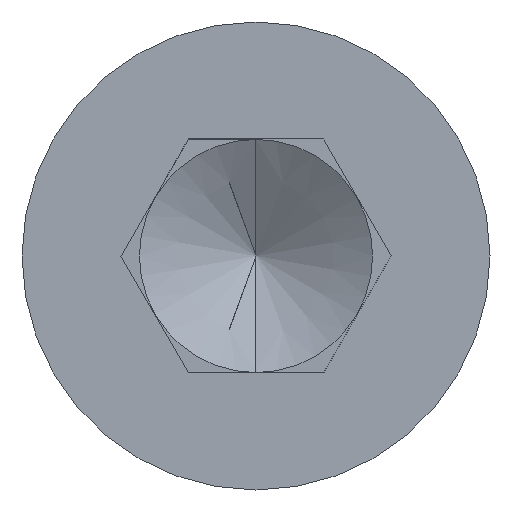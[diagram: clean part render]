
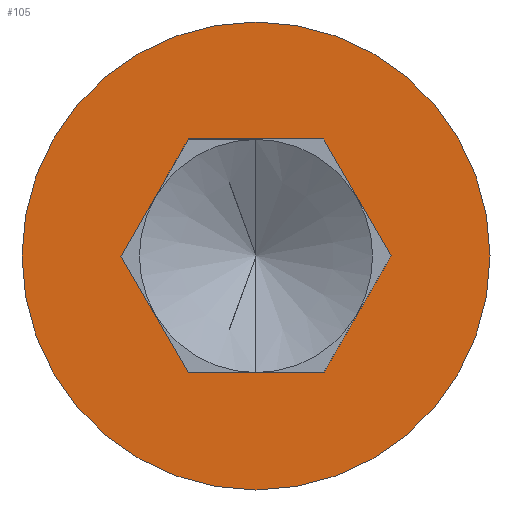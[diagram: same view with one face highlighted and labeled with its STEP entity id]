
A CAD part, left-side view. The second image highlights one B-rep face of the part: STEP entity #105.
In plain terms, the highlighted planar face has unit normal (-1, 0, 0).
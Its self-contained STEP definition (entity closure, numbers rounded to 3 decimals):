
#17 = ORIENTED_EDGE ( 'NONE', *, *, #766, .T. ) ;
#26 = FACE_OUTER_BOUND ( 'NONE', #218, .T. ) ;
#31 = ORIENTED_EDGE ( 'NONE', *, *, #212, .T. ) ;
#37 = LINE ( 'NONE', #203, #58 ) ;
#47 = CARTESIAN_POINT ( 'NONE',  ( -6., 0., 0. ) ) ;
#51 = EDGE_LOOP ( 'NONE', ( #555, #31, #688, #348, #562, #17 ) ) ;
#58 = VECTOR ( 'NONE', #145, 1000. ) ;
#74 = CARTESIAN_POINT ( 'NONE',  ( -6., -2.887, 0. ) ) ;
#90 = VERTEX_POINT ( 'NONE', #137 ) ;
#105 = ADVANCED_FACE ( 'NONE', ( #211, #26 ), #567, .T. ) ;
#106 = DIRECTION ( 'NONE',  ( 0., 0., 1. ) ) ;
#116 = LINE ( 'NONE', #662, #285 ) ;
#129 = EDGE_CURVE ( 'NONE', #182, #626, #116, .T. ) ;
#137 = CARTESIAN_POINT ( 'NONE',  ( -6., -1.443, 2.5 ) ) ;
#145 = DIRECTION ( 'NONE',  ( 0., 0.5, 0.866 ) ) ;
#150 = VECTOR ( 'NONE', #229, 1000. ) ;
#161 = CARTESIAN_POINT ( 'NONE',  ( -6., 0., 0. ) ) ;
#168 = DIRECTION ( 'NONE',  ( -1., 0., 0. ) ) ;
#170 = VERTEX_POINT ( 'NONE', #607 ) ;
#182 = VERTEX_POINT ( 'NONE', #388 ) ;
#185 = EDGE_CURVE ( 'NONE', #251, #220, #679, .T. ) ;
#203 = CARTESIAN_POINT ( 'NONE',  ( -6., 1.443, -2.5 ) ) ;
#211 = FACE_BOUND ( 'NONE', #51, .T. ) ;
#212 = EDGE_CURVE ( 'NONE', #626, #251, #37, .T. ) ;
#218 = EDGE_LOOP ( 'NONE', ( #680, #718 ) ) ;
#220 = VERTEX_POINT ( 'NONE', #327 ) ;
#225 = DIRECTION ( 'NONE',  ( 0., 0., 1. ) ) ;
#229 = DIRECTION ( 'NONE',  ( 0., 0.5, -0.866 ) ) ;
#233 = DIRECTION ( 'NONE',  ( 0., 1., 0. ) ) ;
#237 = CARTESIAN_POINT ( 'NONE',  ( -6., 2.887, 0. ) ) ;
#251 = VERTEX_POINT ( 'NONE', #585 ) ;
#262 = DIRECTION ( 'NONE',  ( 0., -0.5, -0.866 ) ) ;
#276 = CIRCLE ( 'NONE', #552, 5. ) ;
#285 = VECTOR ( 'NONE', #233, 1000. ) ;
#298 = EDGE_CURVE ( 'NONE', #723, #170, #310, .T. ) ;
#310 = CIRCLE ( 'NONE', #592, 5. ) ;
#327 = CARTESIAN_POINT ( 'NONE',  ( -6., 1.443, 2.5 ) ) ;
#347 = VECTOR ( 'NONE', #635, 1000. ) ;
#348 = ORIENTED_EDGE ( 'NONE', *, *, #434, .T. ) ;
#374 = DIRECTION ( 'NONE',  ( 0., -1., 0. ) ) ;
#384 = CARTESIAN_POINT ( 'NONE',  ( -6., 2.5, 2.5 ) ) ;
#388 = CARTESIAN_POINT ( 'NONE',  ( -6., -1.443, -2.5 ) ) ;
#410 = CARTESIAN_POINT ( 'NONE',  ( -6., 0., 5. ) ) ;
#432 = VERTEX_POINT ( 'NONE', #74 ) ;
#434 = EDGE_CURVE ( 'NONE', #220, #90, #798, .T. ) ;
#480 = DIRECTION ( 'NONE',  ( 1., 0., 0. ) ) ;
#534 = CARTESIAN_POINT ( 'NONE',  ( -6., 2.5, 0. ) ) ;
#552 = AXIS2_PLACEMENT_3D ( 'NONE', #161, #591, #225 ) ;
#555 = ORIENTED_EDGE ( 'NONE', *, *, #129, .T. ) ;
#562 = ORIENTED_EDGE ( 'NONE', *, *, #598, .T. ) ;
#567 = PLANE ( 'NONE',  #646 ) ;
#580 = VECTOR ( 'NONE', #262, 1000. ) ;
#585 = CARTESIAN_POINT ( 'NONE',  ( -6., 2.887, 0. ) ) ;
#591 = DIRECTION ( 'NONE',  ( 1., 0., 0. ) ) ;
#592 = AXIS2_PLACEMENT_3D ( 'NONE', #47, #480, #106 ) ;
#594 = CARTESIAN_POINT ( 'NONE',  ( -6., -1.443, 2.5 ) ) ;
#598 = EDGE_CURVE ( 'NONE', #90, #432, #748, .T. ) ;
#602 = DIRECTION ( 'NONE',  ( 0., 0., 1. ) ) ;
#607 = CARTESIAN_POINT ( 'NONE',  ( -6., 0., -5. ) ) ;
#615 = CARTESIAN_POINT ( 'NONE',  ( -6., 1.443, -2.5 ) ) ;
#626 = VERTEX_POINT ( 'NONE', #615 ) ;
#635 = DIRECTION ( 'NONE',  ( 0., -0.5, 0.866 ) ) ;
#638 = VECTOR ( 'NONE', #374, 1000. ) ;
#646 = AXIS2_PLACEMENT_3D ( 'NONE', #534, #168, #602 ) ;
#656 = CARTESIAN_POINT ( 'NONE',  ( -6., -2.887, 0. ) ) ;
#662 = CARTESIAN_POINT ( 'NONE',  ( -6., 2.5, -2.5 ) ) ;
#679 = LINE ( 'NONE', #237, #347 ) ;
#680 = ORIENTED_EDGE ( 'NONE', *, *, #298, .F. ) ;
#688 = ORIENTED_EDGE ( 'NONE', *, *, #185, .T. ) ;
#718 = ORIENTED_EDGE ( 'NONE', *, *, #732, .F. ) ;
#723 = VERTEX_POINT ( 'NONE', #410 ) ;
#732 = EDGE_CURVE ( 'NONE', #170, #723, #276, .T. ) ;
#748 = LINE ( 'NONE', #594, #580 ) ;
#766 = EDGE_CURVE ( 'NONE', #432, #182, #783, .T. ) ;
#783 = LINE ( 'NONE', #656, #150 ) ;
#798 = LINE ( 'NONE', #384, #638 ) ;
